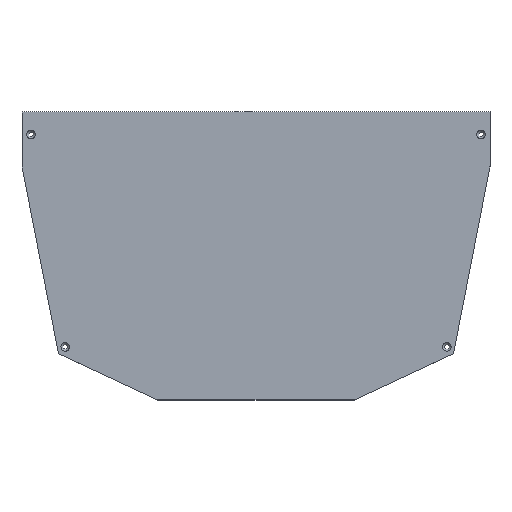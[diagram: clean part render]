
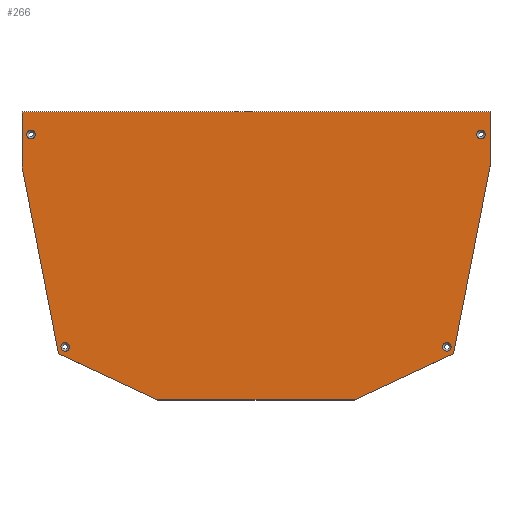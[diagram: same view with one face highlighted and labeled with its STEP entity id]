
A CAD part, top view. The second image highlights one B-rep face of the part: STEP entity #266.
In plain terms, the highlighted planar face has unit normal (0, 0, 1).
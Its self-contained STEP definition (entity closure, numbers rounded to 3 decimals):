
#123=CARTESIAN_POINT('Axis2P3D Location',(0.,0.,6.)) ;
#128=CARTESIAN_POINT('Line Origine',(0.,-160.,6.)) ;
#132=CARTESIAN_POINT('Vertex',(-109.,-160.,6.)) ;
#134=CARTESIAN_POINT('Vertex',(109.,-160.,6.)) ;
#137=CARTESIAN_POINT('Line Origine',(164.237,-134.242,6.)) ;
#141=CARTESIAN_POINT('Vertex',(219.475,-108.485,6.)) ;
#144=CARTESIAN_POINT('Line Origine',(239.737,-4.242,6.)) ;
#148=CARTESIAN_POINT('Vertex',(260.,100.,6.)) ;
#151=CARTESIAN_POINT('Line Origine',(260.,130.,6.)) ;
#155=CARTESIAN_POINT('Vertex',(260.,160.,6.)) ;
#158=CARTESIAN_POINT('Line Origine',(0.,160.,6.)) ;
#162=CARTESIAN_POINT('Vertex',(-260.,160.,6.)) ;
#165=CARTESIAN_POINT('Line Origine',(-260.,130.,6.)) ;
#169=CARTESIAN_POINT('Vertex',(-260.,100.,6.)) ;
#172=CARTESIAN_POINT('Line Origine',(-239.737,-4.242,6.)) ;
#176=CARTESIAN_POINT('Vertex',(-219.475,-108.485,6.)) ;
#179=CARTESIAN_POINT('Line Origine',(-164.237,-134.242,6.)) ;
#194=CARTESIAN_POINT('Axis2P3D Location',(250.,135.,6.)) ;
#198=CARTESIAN_POINT('Vertex',(254.169,132.723,6.)) ;
#200=CARTESIAN_POINT('Vertex',(245.831,137.277,6.)) ;
#203=CARTESIAN_POINT('Axis2P3D Location',(250.,135.,6.)) ;
#212=CARTESIAN_POINT('Axis2P3D Location',(-250.,135.,6.)) ;
#216=CARTESIAN_POINT('Vertex',(-254.169,137.277,6.)) ;
#218=CARTESIAN_POINT('Vertex',(-245.831,132.723,6.)) ;
#221=CARTESIAN_POINT('Axis2P3D Location',(-250.,135.,6.)) ;
#230=CARTESIAN_POINT('Axis2P3D Location',(212.,-101.,6.)) ;
#234=CARTESIAN_POINT('Vertex',(216.169,-103.277,6.)) ;
#236=CARTESIAN_POINT('Vertex',(207.831,-98.723,6.)) ;
#239=CARTESIAN_POINT('Axis2P3D Location',(212.,-101.,6.)) ;
#248=CARTESIAN_POINT('Axis2P3D Location',(-212.,-101.,6.)) ;
#252=CARTESIAN_POINT('Vertex',(-216.169,-98.723,6.)) ;
#254=CARTESIAN_POINT('Vertex',(-207.831,-103.277,6.)) ;
#257=CARTESIAN_POINT('Axis2P3D Location',(-212.,-101.,6.)) ;
#124=DIRECTION('Axis2P3D Direction',(0.,0.,1.)) ;
#125=DIRECTION('Axis2P3D XDirection',(1.,0.,0.)) ;
#129=DIRECTION('Vector Direction',(-1.,0.,0.)) ;
#138=DIRECTION('Vector Direction',(0.906,0.423,0.)) ;
#145=DIRECTION('Vector Direction',(0.191,0.982,0.)) ;
#152=DIRECTION('Vector Direction',(0.,1.,0.)) ;
#159=DIRECTION('Vector Direction',(-1.,0.,0.)) ;
#166=DIRECTION('Vector Direction',(0.,1.,0.)) ;
#173=DIRECTION('Vector Direction',(-0.191,0.982,0.)) ;
#180=DIRECTION('Vector Direction',(-0.906,0.423,0.)) ;
#195=DIRECTION('Axis2P3D Direction',(0.,0.,1.)) ;
#204=DIRECTION('Axis2P3D Direction',(0.,0.,1.)) ;
#213=DIRECTION('Axis2P3D Direction',(0.,0.,1.)) ;
#222=DIRECTION('Axis2P3D Direction',(0.,0.,1.)) ;
#231=DIRECTION('Axis2P3D Direction',(0.,0.,1.)) ;
#240=DIRECTION('Axis2P3D Direction',(0.,0.,1.)) ;
#249=DIRECTION('Axis2P3D Direction',(0.,0.,1.)) ;
#258=DIRECTION('Axis2P3D Direction',(0.,0.,1.)) ;
#126=AXIS2_PLACEMENT_3D('Plane Axis2P3D',#123,#124,#125) ;
#196=AXIS2_PLACEMENT_3D('Circle Axis2P3D',#194,#195,$) ;
#205=AXIS2_PLACEMENT_3D('Circle Axis2P3D',#203,#204,$) ;
#214=AXIS2_PLACEMENT_3D('Circle Axis2P3D',#212,#213,$) ;
#223=AXIS2_PLACEMENT_3D('Circle Axis2P3D',#221,#222,$) ;
#232=AXIS2_PLACEMENT_3D('Circle Axis2P3D',#230,#231,$) ;
#241=AXIS2_PLACEMENT_3D('Circle Axis2P3D',#239,#240,$) ;
#250=AXIS2_PLACEMENT_3D('Circle Axis2P3D',#248,#249,$) ;
#259=AXIS2_PLACEMENT_3D('Circle Axis2P3D',#257,#258,$) ;
#185=ORIENTED_EDGE('',*,*,#136,.T.) ;
#186=ORIENTED_EDGE('',*,*,#143,.T.) ;
#187=ORIENTED_EDGE('',*,*,#150,.T.) ;
#188=ORIENTED_EDGE('',*,*,#157,.T.) ;
#189=ORIENTED_EDGE('',*,*,#164,.T.) ;
#190=ORIENTED_EDGE('',*,*,#171,.T.) ;
#191=ORIENTED_EDGE('',*,*,#178,.T.) ;
#192=ORIENTED_EDGE('',*,*,#183,.T.) ;
#209=ORIENTED_EDGE('',*,*,#202,.F.) ;
#210=ORIENTED_EDGE('',*,*,#207,.F.) ;
#227=ORIENTED_EDGE('',*,*,#220,.F.) ;
#228=ORIENTED_EDGE('',*,*,#225,.F.) ;
#245=ORIENTED_EDGE('',*,*,#238,.F.) ;
#246=ORIENTED_EDGE('',*,*,#243,.F.) ;
#263=ORIENTED_EDGE('',*,*,#256,.F.) ;
#264=ORIENTED_EDGE('',*,*,#261,.F.) ;
#211=FACE_BOUND('',#208,.T.) ;
#229=FACE_BOUND('',#226,.T.) ;
#247=FACE_BOUND('',#244,.T.) ;
#265=FACE_BOUND('',#262,.T.) ;
#130=VECTOR('Line Direction',#129,1.) ;
#139=VECTOR('Line Direction',#138,1.) ;
#146=VECTOR('Line Direction',#145,1.) ;
#153=VECTOR('Line Direction',#152,1.) ;
#160=VECTOR('Line Direction',#159,1.) ;
#167=VECTOR('Line Direction',#166,1.) ;
#174=VECTOR('Line Direction',#173,1.) ;
#181=VECTOR('Line Direction',#180,1.) ;
#266=ADVANCED_FACE('PartBody',(#193,#211,#229,#247,#265),#127,.T.) ;
#197=CIRCLE('generated circle',#196,4.75) ;
#206=CIRCLE('generated circle',#205,4.75) ;
#215=CIRCLE('generated circle',#214,4.75) ;
#224=CIRCLE('generated circle',#223,4.75) ;
#233=CIRCLE('generated circle',#232,4.75) ;
#242=CIRCLE('generated circle',#241,4.75) ;
#251=CIRCLE('generated circle',#250,4.75) ;
#260=CIRCLE('generated circle',#259,4.75) ;
#136=EDGE_CURVE('',#133,#135,#131,.F.) ;
#143=EDGE_CURVE('',#135,#142,#140,.T.) ;
#150=EDGE_CURVE('',#142,#149,#147,.T.) ;
#157=EDGE_CURVE('',#149,#156,#154,.T.) ;
#164=EDGE_CURVE('',#156,#163,#161,.T.) ;
#171=EDGE_CURVE('',#163,#170,#168,.F.) ;
#178=EDGE_CURVE('',#170,#177,#175,.F.) ;
#183=EDGE_CURVE('',#177,#133,#182,.F.) ;
#202=EDGE_CURVE('',#199,#201,#197,.T.) ;
#207=EDGE_CURVE('',#201,#199,#206,.T.) ;
#220=EDGE_CURVE('',#217,#219,#215,.T.) ;
#225=EDGE_CURVE('',#219,#217,#224,.T.) ;
#238=EDGE_CURVE('',#235,#237,#233,.T.) ;
#243=EDGE_CURVE('',#237,#235,#242,.T.) ;
#256=EDGE_CURVE('',#253,#255,#251,.T.) ;
#261=EDGE_CURVE('',#255,#253,#260,.T.) ;
#184=EDGE_LOOP('',(#185,#186,#187,#188,#189,#190,#191,#192)) ;
#208=EDGE_LOOP('',(#209,#210)) ;
#226=EDGE_LOOP('',(#227,#228)) ;
#244=EDGE_LOOP('',(#245,#246)) ;
#262=EDGE_LOOP('',(#263,#264)) ;
#193=FACE_OUTER_BOUND('',#184,.T.) ;
#131=LINE('Line',#128,#130) ;
#140=LINE('Line',#137,#139) ;
#147=LINE('Line',#144,#146) ;
#154=LINE('Line',#151,#153) ;
#161=LINE('Line',#158,#160) ;
#168=LINE('Line',#165,#167) ;
#175=LINE('Line',#172,#174) ;
#182=LINE('Line',#179,#181) ;
#127=PLANE('Plane',#126) ;
#133=VERTEX_POINT('',#132) ;
#135=VERTEX_POINT('',#134) ;
#142=VERTEX_POINT('',#141) ;
#149=VERTEX_POINT('',#148) ;
#156=VERTEX_POINT('',#155) ;
#163=VERTEX_POINT('',#162) ;
#170=VERTEX_POINT('',#169) ;
#177=VERTEX_POINT('',#176) ;
#199=VERTEX_POINT('',#198) ;
#201=VERTEX_POINT('',#200) ;
#217=VERTEX_POINT('',#216) ;
#219=VERTEX_POINT('',#218) ;
#235=VERTEX_POINT('',#234) ;
#237=VERTEX_POINT('',#236) ;
#253=VERTEX_POINT('',#252) ;
#255=VERTEX_POINT('',#254) ;
